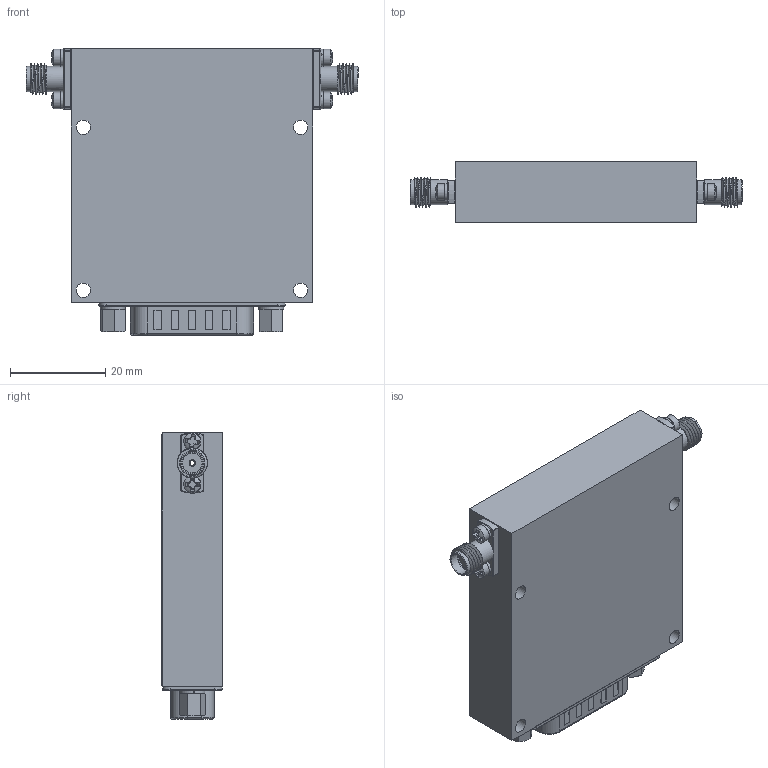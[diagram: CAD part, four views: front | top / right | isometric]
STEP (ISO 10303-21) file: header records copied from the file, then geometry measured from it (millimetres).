
FILE_DESCRIPTION (( 'STEP AP214' ), '1' );
FILE_NAME ('PSDM-25R5G27G-360.STEP', '2026-08-20T19:23:02', ( '' ), ( '' ), 'SwSTEP 2.0', 'SolidWorks 2025', '' );
FILE_SCHEMA (( 'AUTOMOTIVE_DESIGN' ));
Length unit declared in the file: inch
Products named in the file (1): PSDM-25R5G27G-360
Bounding box: 69.85 x 12.83 x 60.24 mm (x, y, z)
Surface area: 13877.2 mm2 (no closed solid volume)
Topology: 0 solids, 21 shells, 587 faces, 2619 edges, 2231 vertices
Faces by surface type: plane 402, cylinder 105, torus 38, cone 28, sphere 10, bspline 4
Full cylindrical faces by diameter (mm): 1.016 x17, 2.184 x1, 2.845 x2, 3.048 x4, 3.556 x4, 4.191 x2, 4.597 x2, 5.283 x4
Entity records: 42399 total; most frequent: CARTESIAN_POINT 13618, ORIENTED_EDGE 4783, DIRECTION 3710, EDGE_CURVE 2557, VERTEX_POINT 2225, LINE 1492, VECTOR 1492, AXIS2_PLACEMENT_3D 1109
